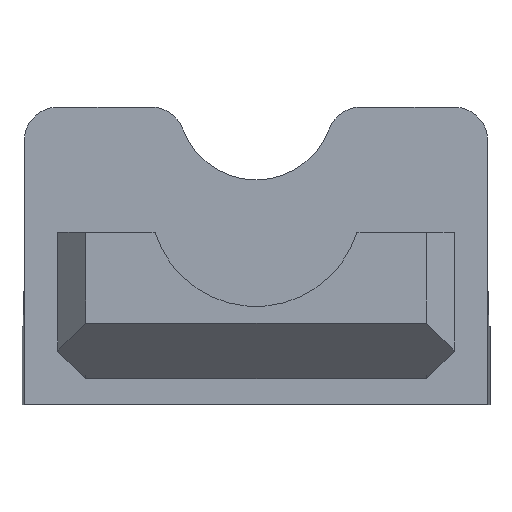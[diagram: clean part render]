
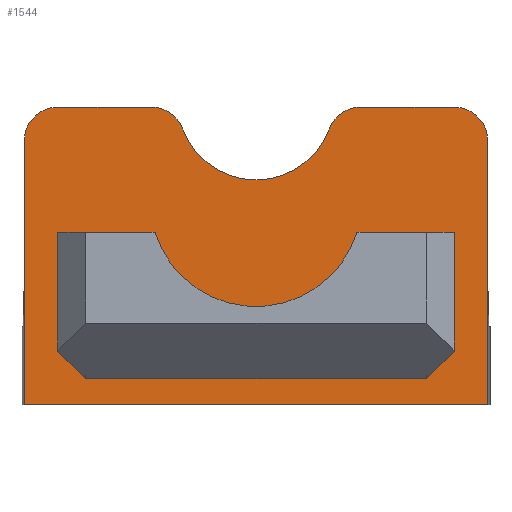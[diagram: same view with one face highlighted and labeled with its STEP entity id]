
A CAD part, left-side view. The second image highlights one B-rep face of the part: STEP entity #1544.
In plain terms, the highlighted planar face has unit normal (-1, 0, 0).
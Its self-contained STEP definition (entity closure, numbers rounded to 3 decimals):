
#31=FACE_BOUND('',#217,.T.);
#53=PLANE('',#1673);
#119=FACE_OUTER_BOUND('',#216,.T.);
#216=EDGE_LOOP('',(#1173,#1174,#1175,#1176,#1177,#1178,#1179,#1180,#1181,
#1182));
#217=EDGE_LOOP('',(#1183,#1184,#1185,#1186,#1187,#1188));
#316=LINE('',#2344,#488);
#318=LINE('',#2350,#490);
#340=LINE('',#2395,#512);
#342=LINE('',#2401,#514);
#344=LINE('',#2405,#516);
#345=LINE('',#2407,#517);
#349=LINE('',#2423,#521);
#354=LINE('',#2432,#526);
#357=LINE('',#2439,#529);
#358=LINE('',#2441,#530);
#488=VECTOR('',#1854,10.);
#490=VECTOR('',#1858,10.);
#512=VECTOR('',#1896,10.);
#514=VECTOR('',#1904,10.);
#516=VECTOR('',#1908,10.);
#517=VECTOR('',#1911,10.);
#521=VECTOR('',#1929,10.);
#526=VECTOR('',#1936,10.);
#529=VECTOR('',#1945,10.);
#530=VECTOR('',#1946,10.);
#643=CIRCLE('',#1659,9.5);
#644=CIRCLE('',#1664,3.);
#645=CIRCLE('',#1666,7.);
#646=CIRCLE('',#1668,3.);
#647=CIRCLE('',#1672,3.);
#648=CIRCLE('',#1674,3.);
#719=VERTEX_POINT('',#2340);
#720=VERTEX_POINT('',#2342);
#722=VERTEX_POINT('',#2347);
#723=VERTEX_POINT('',#2349);
#737=VERTEX_POINT('',#2391);
#738=VERTEX_POINT('',#2393);
#739=VERTEX_POINT('',#2399);
#740=VERTEX_POINT('',#2403);
#741=VERTEX_POINT('',#2409);
#742=VERTEX_POINT('',#2413);
#743=VERTEX_POINT('',#2417);
#744=VERTEX_POINT('',#2421);
#745=VERTEX_POINT('',#2422);
#747=VERTEX_POINT('',#2429);
#748=VERTEX_POINT('',#2431);
#750=VERTEX_POINT('',#2440);
#858=EDGE_CURVE('',#719,#720,#316,.T.);
#860=EDGE_CURVE('',#723,#722,#318,.T.);
#883=EDGE_CURVE('',#737,#738,#340,.T.);
#884=EDGE_CURVE('',#722,#737,#643,.T.);
#886=EDGE_CURVE('',#738,#739,#342,.T.);
#888=EDGE_CURVE('',#739,#740,#344,.T.);
#889=EDGE_CURVE('',#740,#723,#345,.T.);
#891=EDGE_CURVE('',#741,#720,#644,.T.);
#893=EDGE_CURVE('',#741,#742,#645,.T.);
#895=EDGE_CURVE('',#743,#742,#646,.T.);
#896=EDGE_CURVE('',#744,#745,#349,.T.);
#901=EDGE_CURVE('',#748,#747,#354,.T.);
#904=EDGE_CURVE('',#719,#747,#647,.T.);
#905=EDGE_CURVE('',#748,#745,#357,.T.);
#906=EDGE_CURVE('',#743,#750,#358,.T.);
#907=EDGE_CURVE('',#744,#750,#648,.T.);
#1173=ORIENTED_EDGE('',*,*,#896,.T.);
#1174=ORIENTED_EDGE('',*,*,#905,.F.);
#1175=ORIENTED_EDGE('',*,*,#901,.T.);
#1176=ORIENTED_EDGE('',*,*,#904,.F.);
#1177=ORIENTED_EDGE('',*,*,#858,.T.);
#1178=ORIENTED_EDGE('',*,*,#891,.F.);
#1179=ORIENTED_EDGE('',*,*,#893,.T.);
#1180=ORIENTED_EDGE('',*,*,#895,.F.);
#1181=ORIENTED_EDGE('',*,*,#906,.T.);
#1182=ORIENTED_EDGE('',*,*,#907,.F.);
#1183=ORIENTED_EDGE('',*,*,#889,.T.);
#1184=ORIENTED_EDGE('',*,*,#860,.T.);
#1185=ORIENTED_EDGE('',*,*,#884,.T.);
#1186=ORIENTED_EDGE('',*,*,#883,.T.);
#1187=ORIENTED_EDGE('',*,*,#886,.T.);
#1188=ORIENTED_EDGE('',*,*,#888,.T.);
#1544=ADVANCED_FACE('',(#119,#31),#53,.F.);
#1659=AXIS2_PLACEMENT_3D('',#2397,#1899,#1900);
#1664=AXIS2_PLACEMENT_3D('',#2411,#1915,#1916);
#1666=AXIS2_PLACEMENT_3D('',#2415,#1920,#1921);
#1668=AXIS2_PLACEMENT_3D('',#2419,#1925,#1926);
#1672=AXIS2_PLACEMENT_3D('',#2437,#1941,#1942);
#1673=AXIS2_PLACEMENT_3D('',#2438,#1943,#1944);
#1674=AXIS2_PLACEMENT_3D('',#2442,#1947,#1948);
#1854=DIRECTION('',(0.,1.,0.));
#1858=DIRECTION('',(0.,-1.,0.));
#1896=DIRECTION('',(0.,-1.,0.));
#1899=DIRECTION('center_axis',(-1.,0.,0.));
#1900=DIRECTION('ref_axis',(0.,1.,0.));
#1904=DIRECTION('',(0.,0.,-1.));
#1908=DIRECTION('',(0.,1.,0.));
#1911=DIRECTION('',(0.,0.,1.));
#1915=DIRECTION('center_axis',(1.,0.,0.));
#1916=DIRECTION('ref_axis',(0.,0.572,0.82));
#1920=DIRECTION('center_axis',(1.,0.,0.));
#1921=DIRECTION('ref_axis',(0.,1.,0.));
#1925=DIRECTION('center_axis',(1.,0.,0.));
#1926=DIRECTION('ref_axis',(0.,-0.572,0.82));
#1929=DIRECTION('',(0.,0.,-1.));
#1936=DIRECTION('',(0.,0.,1.));
#1941=DIRECTION('center_axis',(1.,0.,0.));
#1942=DIRECTION('ref_axis',(0.,-0.707,0.707));
#1943=DIRECTION('center_axis',(1.,0.,0.));
#1944=DIRECTION('ref_axis',(0.,1.,0.));
#1945=DIRECTION('',(0.,1.,0.));
#1946=DIRECTION('',(0.,1.,0.));
#1947=DIRECTION('center_axis',(1.,0.,0.));
#1948=DIRECTION('ref_axis',(0.,0.707,0.707));
#2340=CARTESIAN_POINT('',(96.15,972.2,-87.76));
#2342=CARTESIAN_POINT('',(96.15,980.618,-87.76));
#2344=CARTESIAN_POINT('',(96.15,969.2,-87.76));
#2347=CARTESIAN_POINT('',(96.15,999.062,-99.));
#2349=CARTESIAN_POINT('',(96.15,1005.3,-99.));
#2350=CARTESIAN_POINT('',(96.15,990.,-99.));
#2391=CARTESIAN_POINT('',(96.15,980.938,-99.));
#2393=CARTESIAN_POINT('',(96.15,974.7,-99.));
#2395=CARTESIAN_POINT('',(96.15,990.,-99.));
#2397=CARTESIAN_POINT('Origin',(96.15,990.,-96.15));
#2399=CARTESIAN_POINT('',(96.15,974.7,-112.15));
#2401=CARTESIAN_POINT('',(96.15,974.7,-100.));
#2403=CARTESIAN_POINT('',(96.15,1005.3,-112.15));
#2405=CARTESIAN_POINT('',(96.15,990.,-112.15));
#2407=CARTESIAN_POINT('',(96.15,1005.3,-106.046));
#2409=CARTESIAN_POINT('',(96.15,983.433,-89.722));
#2411=CARTESIAN_POINT('Origin',(96.15,980.618,-90.76));
#2413=CARTESIAN_POINT('',(96.15,996.567,-89.722));
#2415=CARTESIAN_POINT('Origin',(96.15,990.,-87.298));
#2417=CARTESIAN_POINT('',(96.15,999.382,-87.76));
#2419=CARTESIAN_POINT('Origin',(96.15,999.382,-90.76));
#2421=CARTESIAN_POINT('',(96.15,1010.8,-90.76));
#2422=CARTESIAN_POINT('',(96.15,1010.8,-114.478));
#2423=CARTESIAN_POINT('',(96.15,1010.8,-106.033));
#2429=CARTESIAN_POINT('',(96.15,969.2,-90.76));
#2431=CARTESIAN_POINT('',(96.15,969.2,-114.478));
#2432=CARTESIAN_POINT('',(96.15,969.2,-93.851));
#2437=CARTESIAN_POINT('Origin',(96.15,972.2,-90.76));
#2438=CARTESIAN_POINT('Origin',(96.15,990.,-99.942));
#2439=CARTESIAN_POINT('',(96.15,969.2,-114.478));
#2440=CARTESIAN_POINT('',(96.15,1007.8,-87.76));
#2441=CARTESIAN_POINT('',(96.15,969.2,-87.76));
#2442=CARTESIAN_POINT('Origin',(96.15,1007.8,-90.76));
